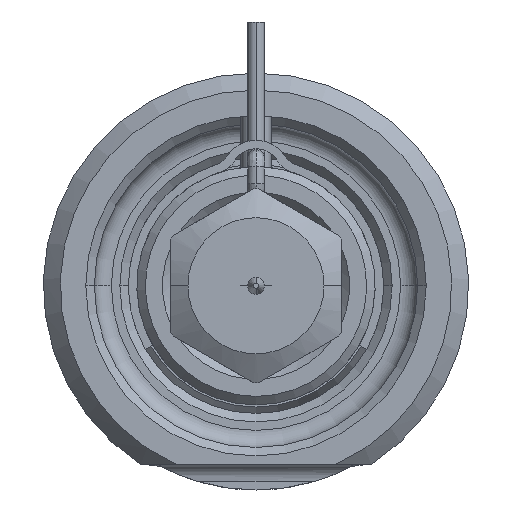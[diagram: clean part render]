
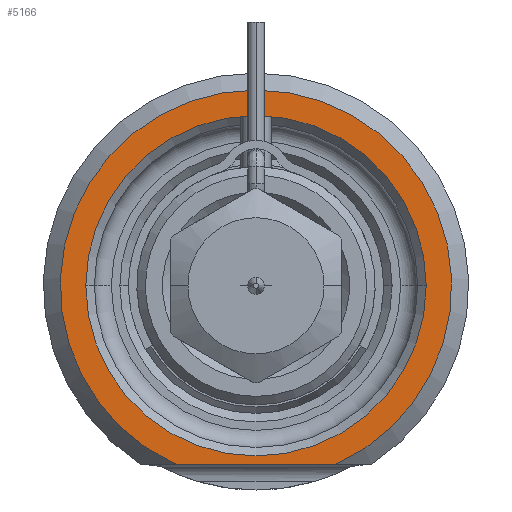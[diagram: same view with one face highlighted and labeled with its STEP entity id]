
A CAD part, front view. The second image highlights one B-rep face of the part: STEP entity #5166.
In plain terms, the highlighted planar face has unit normal (0, -1, 0).
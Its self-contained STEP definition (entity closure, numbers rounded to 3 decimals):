
#1324=CARTESIAN_POINT('',(0.,0.,0.));
#1325=DIRECTION('',(0.,-1.,0.));
#1326=DIRECTION('',(0.408,0.,-0.913));
#1327=AXIS2_PLACEMENT_3D('',#1324,#1325,#1326);
#1348=DIRECTION('',(1.,0.,0.));
#1349=VECTOR('',#1348,9.381);
#1350=CARTESIAN_POINT('',(-4.69,0.,-10.5));
#1351=LINE('',#1350,#1349);
#1352=CARTESIAN_POINT('',(0.,0.,0.));
#1353=DIRECTION('',(0.,1.,0.));
#1354=DIRECTION('',(-1.,0.,0.));
#1355=AXIS2_PLACEMENT_3D('',#1352,#1353,#1354);
#1357=CARTESIAN_POINT('',(0.,0.,0.));
#1358=DIRECTION('',(0.,1.,0.));
#1359=DIRECTION('',(1.,0.,0.));
#1360=AXIS2_PLACEMENT_3D('',#1357,#1358,#1359);
#3255=CARTESIAN_POINT('',(-10.,0.,0.));
#3256=CARTESIAN_POINT('',(10.,0.,0.));
#3257=VERTEX_POINT('',#3255);
#3258=VERTEX_POINT('',#3256);
#3313=CARTESIAN_POINT('',(-4.69,0.,-10.5));
#3314=CARTESIAN_POINT('',(4.69,0.,-10.5));
#3315=VERTEX_POINT('',#3313);
#3316=VERTEX_POINT('',#3314);
#5151=CARTESIAN_POINT('',(0.,0.,0.));
#5152=DIRECTION('',(0.,-1.,0.));
#5153=DIRECTION('',(1.,0.,0.));
#5154=AXIS2_PLACEMENT_3D('',#5151,#5152,#5153);
#5155=PLANE('',#5154);
#5156=ORIENTED_EDGE('',*,*,#5086,.F.);
#5157=ORIENTED_EDGE('',*,*,#5143,.F.);
#5158=EDGE_LOOP('',(#5156,#5157));
#5159=FACE_OUTER_BOUND('',#5158,.F.);
#5161=ORIENTED_EDGE('',*,*,#5160,.F.);
#5163=ORIENTED_EDGE('',*,*,#5162,.F.);
#5164=EDGE_LOOP('',(#5161,#5163));
#5165=FACE_BOUND('',#5164,.F.);
#5166=ADVANCED_FACE('',(#5159,#5165),#5155,.T.);
#1328=CIRCLE('',#1327,11.5);
#1356=CIRCLE('',#1355,10.);
#1361=CIRCLE('',#1360,10.);
#5086=EDGE_CURVE('',#3315,#3316,#1351,.T.);
#5143=EDGE_CURVE('',#3316,#3315,#1328,.T.);
#5160=EDGE_CURVE('',#3257,#3258,#1356,.T.);
#5162=EDGE_CURVE('',#3258,#3257,#1361,.T.);
